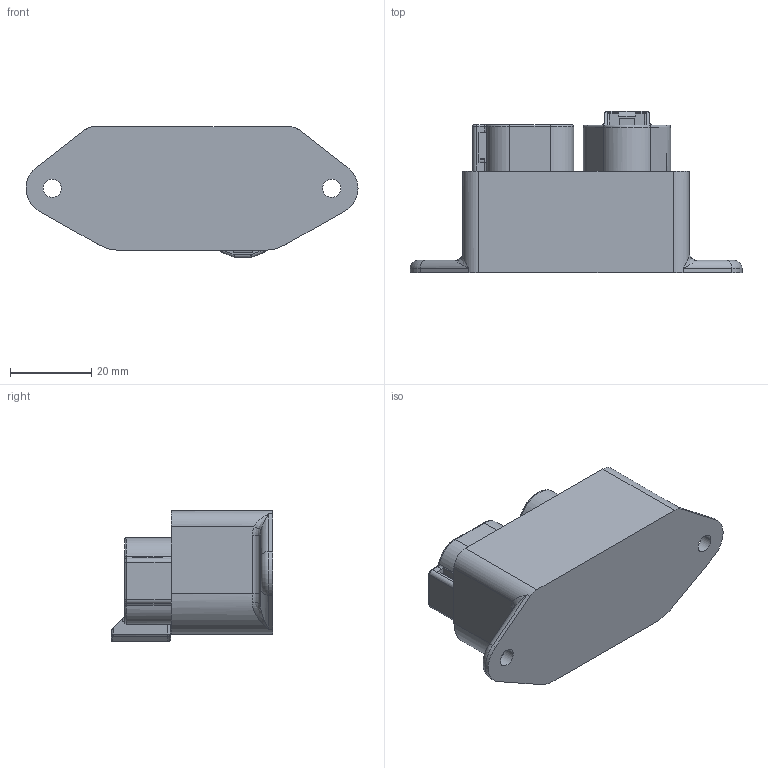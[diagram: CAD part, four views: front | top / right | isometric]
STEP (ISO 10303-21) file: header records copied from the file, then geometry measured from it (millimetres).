
FILE_DESCRIPTION (( 'STEP AP214' ), '1' );
FILE_NAME ('AMDN-L3-001.STEP', '2019-10-31T15:00:28', ( '' ), ( '' ), 'SwSTEP 2.0', 'SolidWorks 2014', '' );
FILE_SCHEMA (( 'AUTOMOTIVE_DESIGN' ));
Length unit declared in the file: millimetre
Products named in the file (65): User_Library-RES_1609-0603; User_Library-RES_1609-0603_1; SW3DPS-SOD123-DEFAULT; c-dtf13-3p-99-3d; SW3dPS-1206_SMD_Capacitor; c-dtf13-6p-99-3d; SW3dPS-0603_SMD_Capacitor_1; User_Library-DO-214AC(SMA); Board_CPU_BOARD; User_Library-DO-214AB(SMC); CONNECTOR BOARD; SW3dPS-0603_SMD_Capacitor; SW3dPS-LED_SMD0805; User_Library-0ZCG-0_90mmPTC1812X0_5MM; Board_CONNECTOR_BOARD; TSW-103-05-G-S; AMDN-L3-001; MTMM-104-02-T-S-100; Part1^AMDN-L3-001; Part2^AMDN-L3-001; MTMM-104-02-T-D-100; User_Library-SON8_3mm; User_Library-so14-1; CPU BOARD; to252-3(4)_10x6.6x2.28; tssop-24
Assembly tree (41 placements, depth 3):
  User_Library-RES_1609-0603
  User_Library-RES_1609-0603_1
  c-dtf13-3p-99-3d
  User_Library-RES_1609-0603_1
  c-dtf13-6p-99-3d
Bounding box: 81.94 x 39.82 x 32.31 mm (x, y, z)
Volume: 22418.6 mm3; surface area: 29660.5 mm2
Topology: 123 solids, 128 shells, 4603 faces, 11706 edges, 7470 vertices
Faces by surface type: plane 2585, bspline 1322, cylinder 641, cone 34, torus 21
Entity records: 156729 total; most frequent: CARTESIAN_POINT 48439, ORIENTED_EDGE 16027, DIRECTION 13150, EDGE_CURVE 8018, VECTOR 5596, LINE 5596, VERTEX_POINT 5134, AXIS2_PLACEMENT_3D 3777
